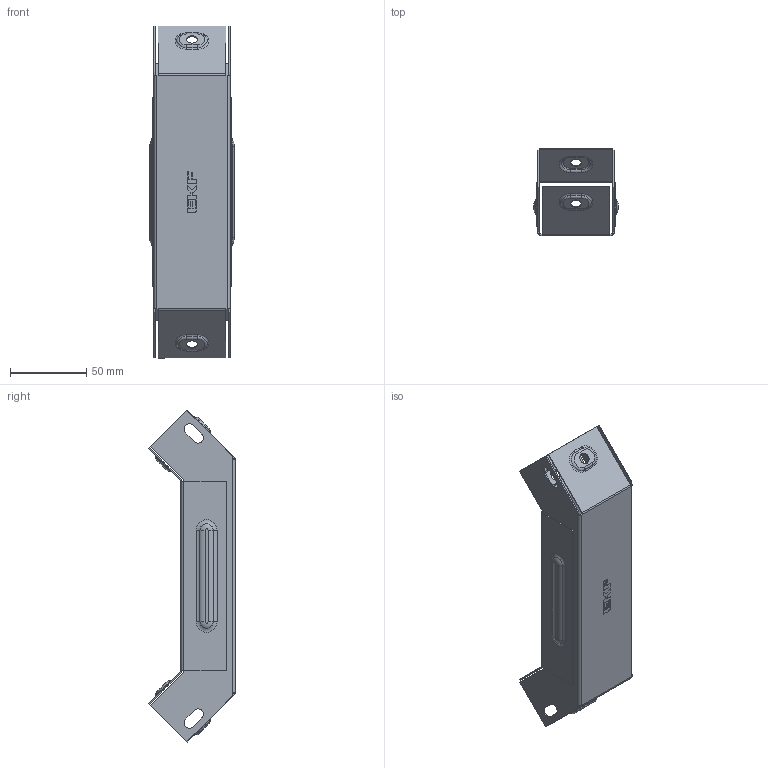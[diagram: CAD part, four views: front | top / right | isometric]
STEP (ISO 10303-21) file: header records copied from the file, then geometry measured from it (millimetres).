
FILE_DESCRIPTION (( 'STEP AP214' ), '1' );
FILE_NAME ('vi903550_捘.STEP', '2019-06-10T09:10:36', ( '砐錪賧瘔蠈錪 Windows' ), ( '' ), 'SwSTEP 2.0', 'SolidWorks 2018', '' );
FILE_SCHEMA (( 'AUTOMOTIVE_DESIGN' ));
Length unit declared in the file: millimetre
Products named in the file (1): vi903550_捘
Bounding box: 55.6 x 57.01 x 218.06 mm (x, y, z)
Volume: 33769.4 mm3; surface area: 85858.1 mm2
Topology: 2 solids, 2 shells, 416 faces, 1056 edges, 672 vertices
Faces by surface type: plane 222, cylinder 112, torus 64, bspline 18
Entity records: 13420 total; most frequent: CARTESIAN_POINT 3164, DIRECTION 2138, ORIENTED_EDGE 2112, EDGE_CURVE 1056, AXIS2_PLACEMENT_3D 719, VECTOR 700, LINE 700, VERTEX_POINT 672
